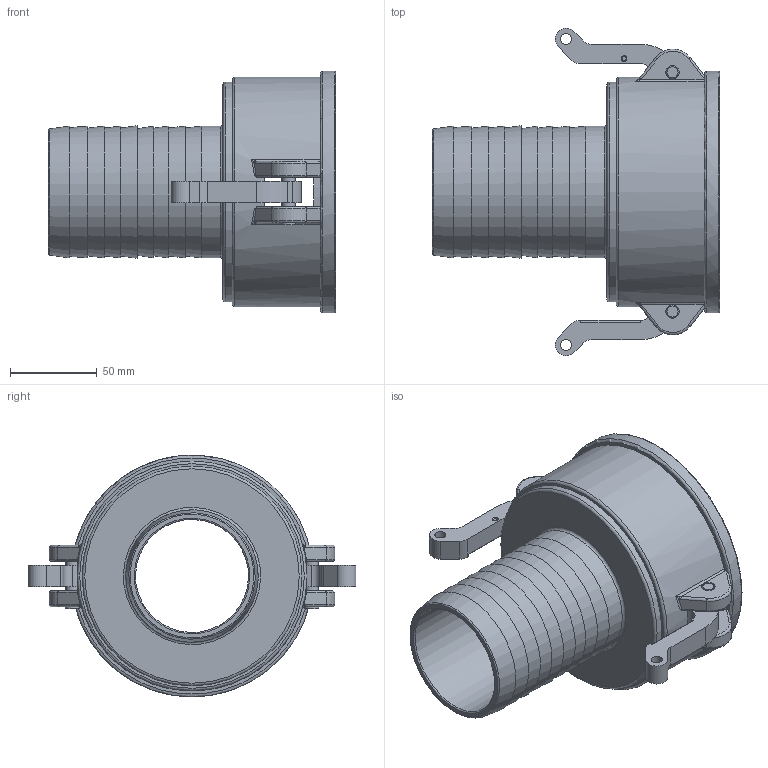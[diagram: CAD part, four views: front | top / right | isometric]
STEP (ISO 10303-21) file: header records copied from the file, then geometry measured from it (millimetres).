
FILE_DESCRIPTION(/* description */ ('Alibre Inc.'),/* implementation_level */ '2;1');
FILE_NAME(/* name */ 'export0',/* time_stamp */ '2016-08-09T11:19:56-04:00',/* author */ (''),/* organization */ (''),/* preprocessor_version */ 'ST-DEVELOPER v14',/* originating_system */ 'Alibre',/* authorisation */ '');
FILE_SCHEMA (('CONFIG_CONTROL_DESIGN'));
Length unit declared in the file: centimetre
Products named in the file (5): ID_2; ID_1; ID_3
Bounding box: 165.86 x 189.44 x 139.7 mm (x, y, z)
Volume: 403071.6 mm3; surface area: 151136.5 mm2
Topology: 6 solids, 6 shells, 180 faces, 427 edges, 267 vertices
Faces by surface type: plane 74, cylinder 59, bspline 18, torus 16, cone 13
Full cylindrical faces by diameter (mm): 6.35 x2, 7.874 x4, 7.925 x2, 8.179 x4, 65.278 x1, 76.2 x1, 93.98 x1, 101.6 x2, 120.142 x1, 123.698 x1, 125.73 x1, 127 x1, 132.842 x1, 139.7 x1
Entity records: 9887 total; most frequent: CARTESIAN_POINT 6197, ORIENTED_EDGE 616, DIRECTION 580, EDGE_CURVE 308, AXIS2_PLACEMENT_3D 266, EDGE_LOOP 224, FACE_BOUND 224, VERTEX_POINT 216
